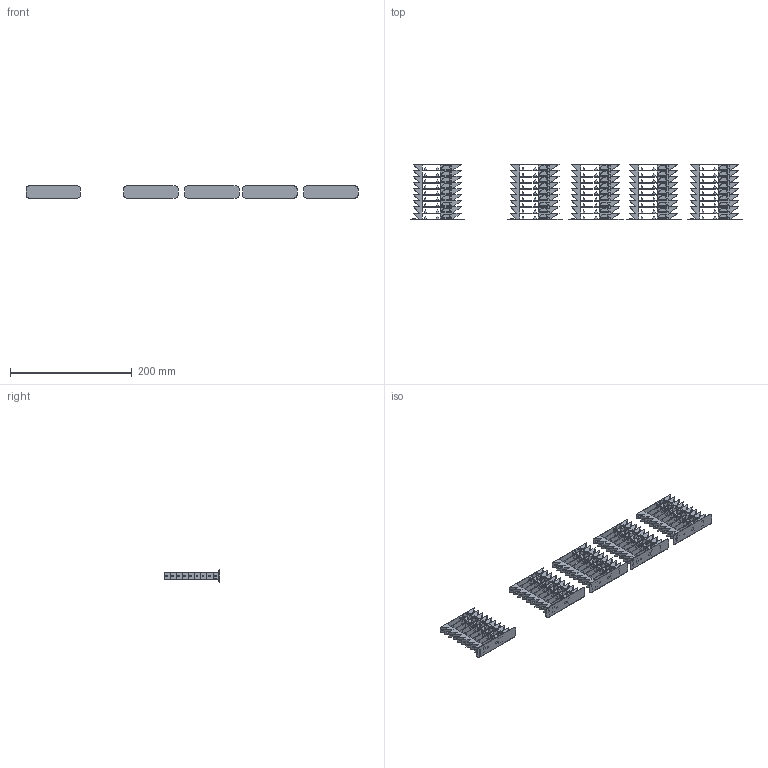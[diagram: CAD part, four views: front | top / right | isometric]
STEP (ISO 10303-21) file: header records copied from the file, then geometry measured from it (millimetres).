
FILE_DESCRIPTION(/* description */ ('','CAx-IF Rec.Pracs.---Representation and Presentation of Product Manufacturing Information (PMI)---4.0---2014-10-13'),/* implementation_level */ '2;1');
FILE_NAME(/* name */ 'Temperature Towers v5.step',/* time_stamp */ '2024-11-10T12:29:33-05:00',/* author */ (''),/* organization */ (''),/* preprocessor_version */ 'ST-DEVELOPER v20',/* originating_system */ 'Autodesk Translation Framework v13.20.0.188',/* authorisation */ '');
FILE_SCHEMA (('AP242_MANAGED_MODEL_BASED_3D_ENGINEERING_MIM_LF { 1 0 10303 442 1 1 4 }'));
Products named in the file (6): Temperature Towers; PLA Tower; PETG Tower; ASA Tower; TPU Tower; PCCF Tower
Assembly tree (5 placements, depth 2):
  Temperature Towers
    PLA Tower
    PETG Tower
    ASA Tower
    TPU Tower
    PCCF Tower
Bounding box: 544.3 x 91 x 20 mm (x, y, z)
Volume: 159818.8 mm3; surface area: 140301.3 mm2
Topology: 5 solids, 5 shells, 5164 faces, 14451 edges, 9633 vertices
Faces by surface type: bspline 2827, plane 1982, cylinder 245, cone 110
Full cylindrical faces by diameter (mm): 3 x135
Entity records: 193247 total; most frequent: CARTESIAN_POINT 78941, ORIENTED_EDGE 28722, EDGE_CURVE 14361, DIRECTION 13869, VERTEX_POINT 9633, LINE 8059, VECTOR 8059, EDGE_LOOP 5950
